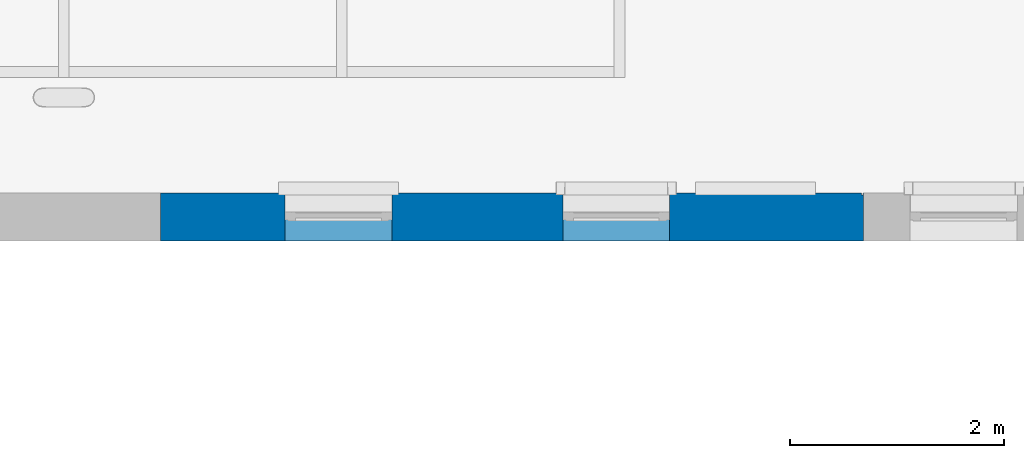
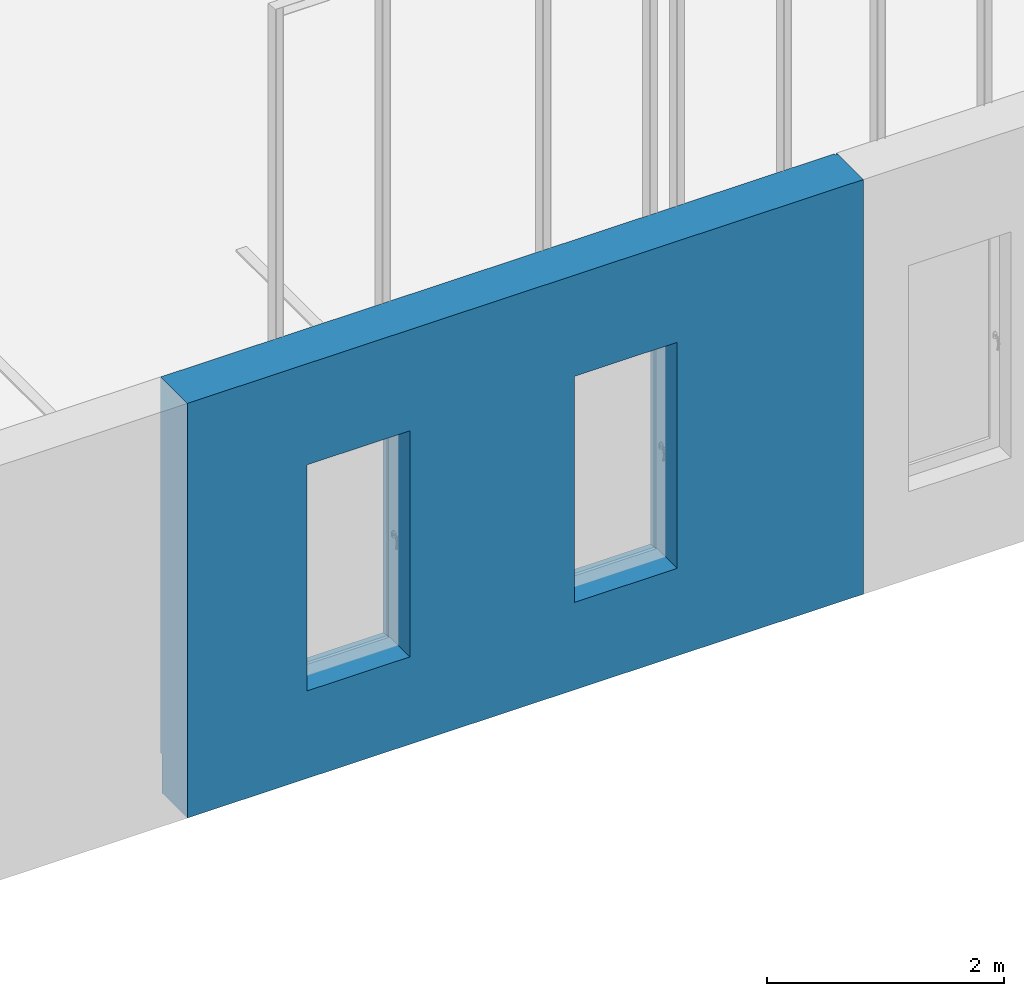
# One storey, part 30 of 77: 1 wall, 5 openings.
"""IFC2X3 building model written with IfcOpenShell, lengths in millimetres."""

import ifcopenshell
import ifcopenshell.guid

model = None  # the IFC model being written
_history = None  # IfcOwnerHistory: only IFC2X3 demands one
_inside = {}  # id of a spatial element -> (the spatial element, [elements in it])
_under = {}  # id of a project, library or spatial element -> (it, [spatial elements below it])
_declared = {}  # id of a project -> (the project, [libraries it declares])
_typed = {}  # id of a type object -> (the type object, [elements of that type])
_made_of = {}  # id of a material, layer set ... -> (it, [elements and type objects made of it])


def new_model(schema):
    """Start an empty IFC model of exactly this schema.

    Asked for "IFC4X3", IfcOpenShell would pick the latest addendum, in which some entities
    have other attributes; the version numbers below select the first issue.
    IFC2X3 requires an IfcOwnerHistory on every rooted entity: one is made here for all.
    """
    global model, _history
    if schema == "IFC4X3":
        model = ifcopenshell.file(schema_version=(4, 3, 0, 0))
    else:
        model = ifcopenshell.file(schema=schema)
    _inside.clear()
    _under.clear()
    _declared.clear()
    _typed.clear()
    _made_of.clear()
    _history = None
    if model.schema == "IFC2X3":
        org = make("IfcOrganization", Name="unknown")
        user = make(
            "IfcPersonAndOrganization",
            ThePerson=make("IfcPerson", FamilyName="unknown"),
            TheOrganization=org,
        )
        app = make(
            "IfcApplication",
            ApplicationDeveloper=org,
            Version="unknown",
            ApplicationFullName="unknown",
            ApplicationIdentifier="unknown",
        )
        _history = make(
            "IfcOwnerHistory",
            OwningUser=user,
            OwningApplication=app,
            ChangeAction="ADDED",
            CreationDate=0,
        )
    return model


def make(cls, **values):
    """One entity of the class cls with the attributes given. An attribute that is None is left unset."""
    return model.create_entity(
        cls, **{name: value for name, value in values.items() if value is not None}
    )


def entity(cls, *values):
    """Any entity or typed value of the class cls, its attributes in the order of the schema. None: left unset."""
    e = model.create_entity(cls)
    for i, value in enumerate(values):
        if value is not None:
            e[i] = value
    return e


def rooted(cls, **values):
    """An entity with a GlobalId (a new one), such as an element, a storey or a relation."""
    return make(cls, GlobalId=ifcopenshell.guid.new(), OwnerHistory=_history, **values)


def si_unit(unit_type, name, prefix=None):
    """IfcSIUnit, for example si_unit("LENGTHUNIT", "METRE", prefix="MILLI")."""
    return make("IfcSIUnit", UnitType=unit_type, Prefix=prefix, Name=name)


def converted_unit(unit_type, name, factor, base, dimensions=None, offset=None):
    """IfcConversionBasedUnit, such as the inch: factor (a typed value) times the base unit."""
    return make(
        "IfcConversionBasedUnit"
        if offset is None
        else "IfcConversionBasedUnitWithOffset",
        ConversionOffset=offset,
        Dimensions=None
        if dimensions is None
        else entity("IfcDimensionalExponents", *dimensions),
        UnitType=unit_type,
        Name=name,
        ConversionFactor=make(
            "IfcMeasureWithUnit", ValueComponent=factor, UnitComponent=base
        ),
    )


def derived_unit(unit_type, elements):
    """IfcDerivedUnit: a product of units, each with its exponent."""
    return make(
        "IfcDerivedUnit",
        Elements=[
            make("IfcDerivedUnitElement", Unit=unit, Exponent=power)
            for unit, power in elements
        ],
        UnitType=unit_type,
    )


def assignment(units):
    """IfcUnitAssignment: the units of a project."""
    return None if units is None else make("IfcUnitAssignment", Units=units)


def point(xyz):
    """IfcCartesianPoint."""
    return None if xyz is None else make("IfcCartesianPoint", Coordinates=xyz)


def direction(xyz):
    """IfcDirection."""
    return None if xyz is None else make("IfcDirection", DirectionRatios=xyz)


def frame(location, z_axis=None, x_axis=None):
    """IfcAxis2Placement3D, a coordinate frame: its origin and axes. An axis left out is left unset."""
    return make(
        "IfcAxis2Placement3D",
        Location=point(location),
        Axis=direction(z_axis),
        RefDirection=direction(x_axis),
    )


def frame_2d(location, x_axis=None):
    """IfcAxis2Placement2D, a coordinate frame in the plane: its origin and x axis."""
    return make(
        "IfcAxis2Placement2D", Location=point(location), RefDirection=direction(x_axis)
    )


def origin():
    """The frame at (0, 0, 0) with its axes left unset."""
    return frame((0.0, 0.0, 0.0))


def origin_2d_with_axis():
    """The frame at (0, 0) in the plane with the x axis (1, 0) written out."""
    return frame_2d((0.0, 0.0), x_axis=(1.0, 0.0))


def place(relative_to, where):
    """IfcLocalPlacement: puts the frame where relative to a parent placement (None: the world)."""
    return make(
        "IfcLocalPlacement", PlacementRelTo=relative_to, RelativePlacement=where
    )


def context(
    kind, dimensions, precision=None, world=None, true_north=None, identifier=None
):
    """IfcGeometricRepresentationContext, for example the 3D "Model" context."""
    return make(
        "IfcGeometricRepresentationContext",
        ContextIdentifier=identifier,
        ContextType=kind,
        CoordinateSpaceDimension=dimensions,
        Precision=precision,
        WorldCoordinateSystem=world,
        TrueNorth=true_north,
    )


def subcontext(parent, identifier, kind, view, scale=None):
    """IfcGeometricRepresentationSubContext, for example "Body" below "Model"."""
    return make(
        "IfcGeometricRepresentationSubContext",
        ContextIdentifier=identifier,
        ContextType=kind,
        ParentContext=parent,
        TargetScale=scale,
        TargetView=view,
    )


def project(units=None, contexts=None):
    """IfcProject with its units and contexts."""
    return rooted(
        "IfcProject",
        Name="project",
        RepresentationContexts=contexts,
        UnitsInContext=assignment(units),
    )


def spatial(cls, under=None, at=None, **own):
    """A site, building, storey or space (cls), placed at a placement, below another one or the project."""
    s = rooted(cls, ObjectPlacement=at, **own)
    if under is not None:
        _under.setdefault(under.id(), (under, []))[1].append(s)
    return s


def profile(cls, at=None, kind="AREA", **sizes):
    """A parametric profile (cls). Its sizes go by their IFC names, for example OverallWidth=200.0."""
    return make(cls, ProfileType=kind, Position=at, **sizes)


def rectangle(**sizes):
    """IfcRectangleProfileDef."""
    return profile("IfcRectangleProfileDef", **sizes)


def extrude(swept, where, along, depth):
    """IfcExtrudedAreaSolid: the profile swept, set in the frame where, extruded along a direction by depth."""
    return make(
        "IfcExtrudedAreaSolid",
        SweptArea=swept,
        Position=where,
        ExtrudedDirection=direction(along),
        Depth=depth,
    )


def faces_of(points, faces, orient=None, outer=None):
    """IfcFace entities. A face is a list of loops; a loop is a list of indices into points, from 0.

    orient and outer hold one flag for each loop. By default every Orientation is true, the
    first loop of a face is its IfcFaceOuterBound and the others are IfcFaceBound.
    """
    made = []
    for i, loops in enumerate(faces):
        bounds = []
        for j, loop in enumerate(loops):
            is_outer = j == 0 if outer is None else outer[i][j]
            bounds.append(
                make(
                    "IfcFaceOuterBound" if is_outer else "IfcFaceBound",
                    Bound=make("IfcPolyLoop", Polygon=[points[k] for k in loop]),
                    Orientation=True if orient is None else orient[i][j],
                )
            )
        made.append(make("IfcFace", Bounds=bounds))
    return made


def faceted_brep(points, faces, orient=None, outer=None, voids=None):
    """IfcFacetedBrep: a solid bounded by flat faces; with voids (closed shells), ...WithVoids."""
    shared = [point(p) for p in points]
    hull = make("IfcClosedShell", CfsFaces=faces_of(shared, faces, orient, outer))
    if voids is None:
        return make("IfcFacetedBrep", Outer=hull)
    return make(
        "IfcFacetedBrepWithVoids",
        Outer=hull,
        Voids=[
            make(cls, CfsFaces=faces_of(shared, fs, o, b)) for cls, fs, o, b in voids
        ],
    )


def shape(context_of_items, identifier, shape_type, items):
    """IfcShapeRepresentation: the items that make up one representation, for example the "Body"."""
    return make(
        "IfcShapeRepresentation",
        ContextOfItems=context_of_items,
        RepresentationIdentifier=identifier,
        RepresentationType=shape_type,
        Items=items,
    )


def material(Name=None, Category=None):
    """IfcMaterial."""
    return make("IfcMaterial", Name=Name, Category=Category)


def layer(
    of_material, thickness, ventilated=None, Name=None, Category=None, Priority=None
):
    """IfcMaterialLayer: one layer of a wall or slab, of a material (None: an air gap)."""
    return make(
        "IfcMaterialLayer",
        Material=of_material,
        LayerThickness=thickness,
        IsVentilated=ventilated,
        Name=Name,
        Category=Category,
        Priority=Priority,
    )


def layer_set(layers, Name=None):
    """IfcMaterialLayerSet."""
    return make("IfcMaterialLayerSet", MaterialLayers=layers, LayerSetName=Name)


def layer_usage(for_layer_set, set_direction, sense, offset, extent=None):
    """IfcMaterialLayerSetUsage: how a layer set lies in its element."""
    return make(
        "IfcMaterialLayerSetUsage",
        ForLayerSet=for_layer_set,
        LayerSetDirection=set_direction,
        DirectionSense=sense,
        OffsetFromReferenceLine=offset,
        ReferenceExtent=extent,
    )


def made_of(thing, what):
    """Note that an element or type object is made of a material, layer set ...; save() writes the relation."""
    if what is not None:
        _made_of.setdefault(what.id(), (what, []))[1].append(thing)
    return thing


def type_object(cls, material=None, **own):
    """A type object (cls), such as IfcWallType, which elements share."""
    return made_of(rooted(cls, **own), material)


def element(
    cls,
    number,
    at=None,
    inside=None,
    cuts=None,
    type_object=None,
    material=None,
    context=None,
    identifier="Body",
    shape_type=None,
    held_by="IfcProductDefinitionShape",
    body=None,
    shapes=None,
    **own,
):
    """One element of the class cls, such as IfcWall. Its Tag is "e" and its number.

    at: its placement. inside: the storey or other place that contains it. cuts: it is an
    opening in that element (IfcRelVoidsElement). A single representation is given by context,
    identifier, shape_type and body (its items); several are given by shapes. held_by: the class
    of the entity that holds the representations. save() writes the other relations.
    """
    e = rooted(cls, Tag="e%d" % number, ObjectPlacement=at, **own)
    if body is not None:
        shapes = [shape(context, identifier, shape_type, body)]
    if shapes is not None:
        e.Representation = make(held_by, Representations=shapes)
    if inside is not None:
        _inside.setdefault(inside.id(), (inside, []))[1].append(e)
    if cuts is not None:
        rooted(
            "IfcRelVoidsElement", RelatingBuildingElement=cuts, RelatedOpeningElement=e
        )
    if type_object is not None:
        _typed.setdefault(type_object.id(), (type_object, []))[1].append(e)
    return made_of(e, material)


def aggregate(whole, parts):
    """IfcRelAggregates: a whole, such as a stair, and the parts it consists of."""
    return rooted("IfcRelAggregates", RelatingObject=whole, RelatedObjects=parts)


def save(model, path):
    """Write the relations noted so far, then the file.

    IfcRelAggregates (storeys below a building ...), IfcRelContainedInSpatialStructure (elements
    in a storey), IfcRelDefinesByType, IfcRelAssociatesMaterial and IfcRelDeclares: one each for
    every whole, place, type object, material and project.
    """
    for whole, parts in _under.values():
        aggregate(whole, parts)
    for where, things in _inside.values():
        rooted(
            "IfcRelContainedInSpatialStructure",
            RelatedElements=things,
            RelatingStructure=where,
        )
    for kind, things in _typed.values():
        rooted("IfcRelDefinesByType", RelatedObjects=things, RelatingType=kind)
    for what, things in _made_of.values():
        rooted("IfcRelAssociatesMaterial", RelatedObjects=things, RelatingMaterial=what)
    for by, libraries in _declared.values():
        rooted("IfcRelDeclares", RelatingContext=by, RelatedDefinitions=libraries)
    model.write(path)


model = new_model("IFC2X3")

# Units and contexts
model_context = context("Model", 3, precision=0.01, world=origin(), true_north=direction((6.12303176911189e-17, 1.0)))
body_context = subcontext(model_context, "Body", "Model", "MODEL_VIEW")
ifc_project = project(units=[si_unit("LENGTHUNIT", "METRE", prefix="MILLI"), si_unit("AREAUNIT", "SQUARE_METRE"), si_unit("VOLUMEUNIT", "CUBIC_METRE"), converted_unit("PLANEANGLEUNIT", "DEGREE", entity("IfcRatioMeasure", 0.0174532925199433), si_unit("PLANEANGLEUNIT", "RADIAN"), dimensions=[0, 0, 0, 0, 0, 0, 0]), si_unit("MASSUNIT", "GRAM", prefix="KILO"), derived_unit("MASSDENSITYUNIT", [(si_unit("MASSUNIT", "GRAM", prefix="KILO"), 1), (si_unit("LENGTHUNIT", "METRE"), -3)]), si_unit("TIMEUNIT", "SECOND"), si_unit("FREQUENCYUNIT", "HERTZ"), si_unit("THERMODYNAMICTEMPERATUREUNIT", "DEGREE_CELSIUS"), derived_unit("THERMALTRANSMITTANCEUNIT", [(si_unit("MASSUNIT", "GRAM", prefix="KILO"), 1), (si_unit("THERMODYNAMICTEMPERATUREUNIT", "KELVIN"), -1), (si_unit("TIMEUNIT", "SECOND"), -3)]), derived_unit("VOLUMETRICFLOWRATEUNIT", [(si_unit("LENGTHUNIT", "METRE"), 3), (si_unit("TIMEUNIT", "SECOND"), -1)]), si_unit("ELECTRICCURRENTUNIT", "AMPERE"), si_unit("ELECTRICVOLTAGEUNIT", "VOLT"), si_unit("POWERUNIT", "WATT"), si_unit("FORCEUNIT", "NEWTON", prefix="KILO"), si_unit("ILLUMINANCEUNIT", "LUX"), si_unit("LUMINOUSFLUXUNIT", "LUMEN"), si_unit("LUMINOUSINTENSITYUNIT", "CANDELA"), derived_unit("USERDEFINED", [(si_unit("MASSUNIT", "GRAM", prefix="KILO"), -1), (si_unit("LENGTHUNIT", "METRE"), -2), (si_unit("TIMEUNIT", "SECOND"), 3), (si_unit("LUMINOUSFLUXUNIT", "LUMEN"), 1)]), derived_unit("LINEARVELOCITYUNIT", [(si_unit("LENGTHUNIT", "METRE"), 1), (si_unit("TIMEUNIT", "SECOND"), -1)]), si_unit("PRESSUREUNIT", "PASCAL"), derived_unit("USERDEFINED", [(si_unit("LENGTHUNIT", "METRE"), -2), (si_unit("MASSUNIT", "GRAM", prefix="KILO"), 1), (si_unit("TIMEUNIT", "SECOND"), -2)])], contexts=[model_context])

# Site, building, storey
site_placement = place(None, origin())
site = spatial("IfcSite", under=ifc_project, at=site_placement, Name="Default", CompositionType="ELEMENT")
building_placement = place(site_placement, origin())
building = spatial("IfcBuilding", under=site, at=building_placement, CompositionType="ELEMENT")
storey_placement = place(building_placement, origin())
storey = spatial("IfcBuildingStorey", under=building, at=storey_placement, Name="1. KORRUS", CompositionType="ELEMENT", Elevation=0.0)

# Wall, openings
ifc_material_1 = material(Name="RECKLI 1 173 THUR by Polantis 2016-toon2")
ifc_layer_1 = layer(ifc_material_1, 100.0)
ifc_material_2 = material(Name="Soojusisolatsioon EPS")
ifc_layer_2 = layer(ifc_material_2, 200.0)
ifc_material_3 = material(Name="r/b")
ifc_layer_3 = layer(ifc_material_3, 150.0)
ifc_layer_set = layer_set([ifc_layer_1, ifc_layer_2, ifc_layer_3], Name="Basic Wall:VS-1_toon-c")
ifc_layer_usage = layer_usage(ifc_layer_set, "AXIS2", "NEGATIVE", 225.0)
wall_type = type_object("IfcWallType", Name="Basic Wall:VS-1_toon-c", PredefinedType="STANDARD", material=ifc_layer_set)
wall_placement = place(storey_placement, frame((22085.0, 21725.0517807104, -400.0)))
wall = element("IfcWallStandardCase", 1, at=wall_placement, inside=storey, type_object=wall_type, material=ifc_layer_usage, Name="Basic Wall:VS-1_toon-c", ObjectType="Basic Wall:VS-1_toon-c", context=body_context, shape_type="SweptSolid", body=[
    extrude(rectangle(XDim=6578.21614873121, YDim=450.000000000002, at=frame_2d((3289.1080743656, -2.55795384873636e-13), x_axis=(-1.0, 0.0))), origin(), (0.0, 0.0, 1.0), 4265.0),
])
opening_1_placement = place(wall_placement, origin())
element("IfcOpeningElement", 2, at=opening_1_placement, cuts=wall, Name="Basic Wall:VS-1_toon-c", ObjectType="Opening", context=body_context, shape_type="Brep", body=[
    faceted_brep([(-22515.0, 6304.94821928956, 400.0), (-22515.0, 6304.94821928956, 0.0), (-22535.0, 6324.94821928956, 0.0), (-22535.0, 6324.94821928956, 400.0), (-22515.0, 1564.94821928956, 400.0), (-22535.0, 1564.94821928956, 400.0), (-22535.0, 1564.94821928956, 0.0), (-22515.0, 1564.94821928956, 0.0)], [[[0, 1, 2, 3]], [[4, 5, 6, 7]], [[1, 0, 4, 7]], [[2, 1, 7, 6]], [[3, 2, 6, 5]], [[0, 3, 5, 4]]]),
    faceted_brep([(-22515.0, 6304.94821928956, 400.0), (-22535.0, 6324.94821928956, 400.0), (-22535.0, 6324.94821928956, 0.0), (-22515.0, 6304.94821928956, 0.0), (-18175.0, 6304.94821928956, 400.0), (-18175.0, 6304.94821928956, 0.0), (-18175.0, 6324.94821928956, 0.0), (-18175.0, 6324.94821928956, 400.0)], [[[0, 1, 2, 3]], [[4, 5, 6, 7]], [[1, 0, 4, 7]], [[2, 1, 7, 6]], [[3, 2, 6, 5]], [[0, 3, 5, 4]]]),
    faceted_brep([(-12455.0, 6304.94821928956, 400.0), (-12435.0, 6324.94821928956, 400.0), (-12435.0, 6324.94821928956, 0.0), (-12455.0, 6304.94821928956, 0.0), (-12455.0, 205.0, 400.0), (-12455.0, 205.0, 0.0), (-12435.0, 225.0, 0.0), (-12435.0, 225.0, 400.0)], [[[0, 1, 2, 3]], [[4, 5, 6, 7]], [[1, 0, 4, 7]], [[2, 1, 7, 6]], [[3, 2, 6, 5]], [[0, 3, 5, 4]]]),
    faceted_brep([(-7735.0, 205.0, 400.0), (-7735.0, 225.0, 400.0), (-7735.0, 225.0, 0.0), (-7735.0, 205.0, 0.0), (-7205.0, 205.0, 400.0), (-7205.0, 205.0, 0.0), (-7205.0, 225.0, 0.0), (-7205.0, 225.0, 400.0)], [[[0, 1, 2, 3]], [[4, 5, 6, 7]], [[1, 0, 4, 7]], [[2, 1, 7, 6]], [[3, 2, 6, 5]], [[0, 3, 5, 4]]]),
    faceted_brep([(17845.0, 205.0, 400.0), (17865.0, 225.0, 400.0), (17865.0, 225.0, 0.0), (17845.0, 205.0, 0.0), (17845.0, -5935.05178071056, 400.0), (17845.0, -5935.05178071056, 0.0), (17865.0, -5935.05178071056, 0.0), (17865.0, -5935.05178071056, 400.0)], [[[0, 1, 2, 3]], [[4, 5, 6, 7]], [[1, 0, 4, 7]], [[2, 1, 7, 6]], [[3, 2, 6, 5]], [[0, 3, 5, 4]]]),
    faceted_brep([(17845.0, -22155.0517807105, 400.0), (17865.0, -22175.0517807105, 400.0), (17865.0, -22175.0517807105, 0.0), (17845.0, -22155.0517807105, 0.0), (12715.0, -22155.0517807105, 400.0), (12715.0, -22155.0517807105, 0.0), (12715.0, -22175.0517807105, 0.0), (12715.0, -22175.0517807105, 400.0)], [[[0, 1, 2, 3]], [[4, 5, 6, 7]], [[1, 0, 4, 7]], [[2, 1, 7, 6]], [[3, 2, 6, 5]], [[0, 3, 5, 4]]]),
    faceted_brep([(-10685.0, -22155.0517807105, 400.0), (-10685.0, -22175.0517807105, 400.0), (-10685.0, -22175.0517807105, 0.0), (-10685.0, -22155.0517807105, 0.0), (-14470.0, -22155.0517807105, 400.0), (-14470.0, -22155.0517807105, 0.0), (-14470.0, -22175.0517807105, 0.0), (-14470.0, -22175.0517807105, 400.0)], [[[0, 1, 2, 3]], [[4, 5, 6, 7]], [[1, 0, 4, 7]], [[2, 1, 7, 6]], [[3, 2, 6, 5]], [[0, 3, 5, 4]]]),
    faceted_brep([(17845.0, -8965.05178071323, 400.0), (17865.0, -8965.05178071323, 400.0), (17865.0, -8965.05178071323, 0.0), (17845.0, -8965.05178071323, 0.0), (17845.0, -13081.7217807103, 400.0), (17845.0, -13081.7217807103, 0.0), (17865.0, -13081.7217807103, 0.0), (17865.0, -13081.7217807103, 400.0)], [[[0, 1, 2, 3]], [[4, 5, 6, 7]], [[1, 0, 4, 7]], [[2, 1, 7, 6]], [[3, 2, 6, 5]], [[0, 3, 5, 4]]]),
    faceted_brep([(9115.0, -22155.0517807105, 400.0), (9115.0, -22175.0517807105, 400.0), (9115.0, -22175.0517807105, 0.0), (9115.0, -22155.0517807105, 0.0), (6715.0, -22155.0517807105, 400.0), (6715.0, -22155.0517807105, 0.0), (6715.0, -22175.0517807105, 0.0), (6715.0, -22175.0517807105, 400.0)], [[[0, 1, 2, 3]], [[4, 5, 6, 7]], [[1, 0, 4, 7]], [[2, 1, 7, 6]], [[3, 2, 6, 5]], [[0, 3, 5, 4]]]),
    faceted_brep([(-18294.969176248, -22155.0517807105, 400.0), (-18294.969176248, -22175.0517807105, 400.0), (-18294.969176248, -22175.0517807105, 0.0), (-18294.969176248, -22155.0517807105, 0.0), (-20779.969176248, -22155.0517807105, 400.0), (-20779.969176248, -22155.0517807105, 0.0), (-20779.969176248, -22175.0517807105, 0.0), (-20779.969176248, -22175.0517807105, 400.0)], [[[0, 1, 2, 3]], [[4, 5, 6, 7]], [[1, 0, 4, 7]], [[2, 1, 7, 6]], [[3, 2, 6, 5]], [[0, 3, 5, 4]]]),
    faceted_brep([(-6085.0, -22155.0517807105, 400.0), (-6085.0, -22175.0517807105, 400.0), (-6085.0, -22175.0517807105, 0.0), (-6085.0, -22155.0517807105, 0.0), (-7085.0, -22155.0517807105, 400.0), (-7085.0, -22155.0517807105, 0.0), (-7085.0, -22175.0517807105, 0.0), (-7085.0, -22175.0517807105, 400.0)], [[[0, 1, 2, 3]], [[4, 5, 6, 7]], [[1, 0, 4, 7]], [[2, 1, 7, 6]], [[3, 2, 6, 5]], [[0, 3, 5, 4]]]),
    faceted_brep([(-1484.96833701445, -22155.0517807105, 400.0), (-1484.96833701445, -22175.0517807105, 400.0), (-1484.96833701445, -22175.0517807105, 0.0), (-1484.96833701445, -22155.0517807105, 0.0), (-2485.0, -22155.0517807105, 400.0), (-2485.0, -22155.0517807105, 0.0), (-2485.0, -22175.0517807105, 0.0), (-2485.0, -22175.0517807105, 400.0)], [[[0, 1, 2, 3]], [[4, 5, 6, 7]], [[1, 0, 4, 7]], [[2, 1, 7, 6]], [[3, 2, 6, 5]], [[0, 3, 5, 4]]]),
    faceted_brep([(3115.03166298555, -22155.0517807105, 400.0), (3115.03166298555, -22175.0517807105, 400.0), (3115.03166298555, -22175.0517807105, 0.0), (3115.03166298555, -22155.0517807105, 0.0), (2115.0, -22155.0517807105, 400.0), (2115.0, -22155.0517807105, 0.0), (2115.0, -22175.0517807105, 0.0), (2115.0, -22175.0517807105, 400.0)], [[[0, 1, 2, 3]], [[4, 5, 6, 7]], [[1, 0, 4, 7]], [[2, 1, 7, 6]], [[3, 2, 6, 5]], [[0, 3, 5, 4]]]),
    faceted_brep([(17845.0, -17310.0517807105, 400.0), (17865.0, -17310.0517807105, 400.0), (17865.0, -17310.0517807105, 0.0), (17845.0, -17310.0517807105, 0.0), (17845.0, -22155.0517807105, 400.0), (17845.0, -22155.0517807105, 0.0), (17865.0, -22175.0517807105, 0.0), (17865.0, -22175.0517807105, 400.0)], [[[0, 1, 2, 3]], [[4, 5, 6, 7]], [[1, 0, 4, 7]], [[2, 1, 7, 6]], [[3, 2, 6, 5]], [[0, 3, 5, 4]]]),
    faceted_brep([(17845.0, -13081.7217807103, 400.0), (17865.0, -13081.7217807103, 400.0), (17865.0, -13081.7217807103, 0.0), (17845.0, -13081.7217807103, 0.0), (17845.0, -17310.0517807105, 400.0), (17845.0, -17310.0517807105, 0.0), (17865.0, -17310.0517807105, 0.0), (17865.0, -17310.0517807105, 400.0)], [[[0, 1, 2, 3]], [[4, 5, 6, 7]], [[1, 0, 4, 7]], [[2, 1, 7, 6]], [[3, 2, 6, 5]], [[0, 3, 5, 4]]]),
    faceted_brep([(17845.0, -5935.05178071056, 400.0), (17865.0, -5935.05178071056, 400.0), (17865.0, -5935.05178071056, 0.0), (17845.0, -5935.05178071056, 0.0), (17845.0, -8965.05178071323, 400.0), (17845.0, -8965.05178071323, 0.0), (17865.0, -8965.05178071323, 0.0), (17865.0, -8965.05178071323, 400.0)], [[[0, 1, 2, 3]], [[4, 5, 6, 7]], [[1, 0, 4, 7]], [[2, 1, 7, 6]], [[3, 2, 6, 5]], [[0, 3, 5, 4]]]),
    faceted_brep([(11885.1035702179, 205.0, 400.0), (11885.1035702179, 225.0, 400.0), (11885.1035702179, 225.0, 0.0), (11885.1035702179, 205.0, 0.0), (17845.0, 205.0, 400.0), (17845.0, 205.0, 0.0), (17865.0, 225.0, 0.0), (17865.0, 225.0, 400.0)], [[[0, 1, 2, 3]], [[4, 5, 6, 7]], [[1, 0, 4, 7]], [[2, 1, 7, 6]], [[3, 2, 6, 5]], [[0, 3, 5, 4]]]),
    faceted_brep([(6578.2161487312, 205.0, 400.0), (6578.2161487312, 225.0, 400.0), (6578.2161487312, 225.0, 0.0), (6578.2161487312, 205.0, 0.0), (11885.1035702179, 205.0, 400.0), (11885.1035702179, 205.0, 0.0), (11885.1035702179, 225.0, 0.0), (11885.1035702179, 225.0, 400.0)], [[[0, 1, 2, 3]], [[4, 5, 6, 7]], [[1, 0, 4, 7]], [[2, 1, 7, 6]], [[3, 2, 6, 5]], [[0, 3, 5, 4]]]),
    faceted_brep([(-14470.0, -22155.0517807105, 400.0), (-14470.0, -22175.0517807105, 400.0), (-14470.0, -22175.0517807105, 0.0), (-14470.0, -22155.0517807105, 0.0), (-18294.969176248, -22155.0517807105, 400.0), (-18294.969176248, -22155.0517807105, 0.0), (-18294.969176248, -22175.0517807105, 0.0), (-18294.969176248, -22175.0517807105, 400.0)], [[[0, 1, 2, 3]], [[4, 5, 6, 7]], [[1, 0, 4, 7]], [[2, 1, 7, 6]], [[3, 2, 6, 5]], [[0, 3, 5, 4]]]),
    faceted_brep([(0.0, 205.0, 400.0), (0.0, 225.0, 400.0), (0.0, 225.0, 0.0), (0.0, 205.0, 0.0), (6578.2161487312, 205.0, 400.0), (6578.2161487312, 205.0, 0.0), (6578.2161487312, 225.0, 0.0), (6578.2161487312, 225.0, 400.0)], [[[0, 1, 2, 3]], [[4, 5, 6, 7]], [[1, 0, 4, 7]], [[2, 1, 7, 6]], [[3, 2, 6, 5]], [[0, 3, 5, 4]]]),
    faceted_brep([(-3831.64710898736, 205.0, 400.0), (-3831.64710898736, 225.0, 400.0), (-3831.64710898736, 225.0, 0.0), (-3831.64710898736, 205.0, 0.0), (0.0, 205.0, 400.0), (0.0, 205.0, 0.0), (0.0, 225.0, 0.0), (0.0, 225.0, 400.0)], [[[0, 1, 2, 3]], [[4, 5, 6, 7]], [[1, 0, 4, 7]], [[2, 1, 7, 6]], [[3, 2, 6, 5]], [[0, 3, 5, 4]]]),
    faceted_brep([(-7205.0, 205.0, 400.0), (-7205.0, 225.0, 400.0), (-7205.0, 225.0, 0.0), (-7205.0, 205.0, 0.0), (-3831.64710898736, 205.0, 400.0), (-3831.64710898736, 205.0, 0.0), (-3831.64710898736, 225.0, 0.0), (-3831.64710898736, 225.0, 400.0)], [[[0, 1, 2, 3]], [[4, 5, 6, 7]], [[1, 0, 4, 7]], [[2, 1, 7, 6]], [[3, 2, 6, 5]], [[0, 3, 5, 4]]]),
    faceted_brep([(-18175.0, 6304.94821928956, 400.0), (-18175.0, 6324.94821928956, 400.0), (-18175.0, 6324.94821928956, 0.0), (-18175.0, 6304.94821928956, 0.0), (-12455.0, 6304.94821928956, 400.0), (-12455.0, 6304.94821928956, 0.0), (-12435.0, 6324.94821928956, 0.0), (-12435.0, 6324.94821928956, 400.0)], [[[0, 1, 2, 3]], [[4, 5, 6, 7]], [[1, 0, 4, 7]], [[2, 1, 7, 6]], [[3, 2, 6, 5]], [[0, 3, 5, 4]]]),
    faceted_brep([(-22515.0, 1564.94821928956, 400.0), (-22515.0, 1564.94821928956, 0.0), (-22535.0, 1564.94821928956, 0.0), (-22535.0, 1564.94821928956, 400.0), (-22515.0, -3985.05108347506, 400.0), (-22535.0, -3985.05108347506, 400.0), (-22535.0, -3985.05108347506, 0.0), (-22515.0, -3985.05108347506, 0.0)], [[[0, 1, 2, 3]], [[4, 5, 6, 7]], [[1, 0, 4, 7]], [[2, 1, 7, 6]], [[3, 2, 6, 5]], [[0, 3, 5, 4]]]),
    faceted_brep([(-22515.0, -3985.05108347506, 400.0), (-22515.0, -3985.05108347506, 0.0), (-22535.0, -3985.05108347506, 0.0), (-22535.0, -3985.05108347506, 400.0), (-22515.0, -8925.05178071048, 400.0), (-22535.0, -8925.05178071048, 400.0), (-22535.0, -8925.05178071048, 0.0), (-22515.0, -8925.05178071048, 0.0)], [[[0, 1, 2, 3]], [[4, 5, 6, 7]], [[1, 0, 4, 7]], [[2, 1, 7, 6]], [[3, 2, 6, 5]], [[0, 3, 5, 4]]]),
    faceted_brep([(-12455.0, 205.0, 400.0), (-12435.0, 225.0, 400.0), (-12435.0, 225.0, 0.0), (-12455.0, 205.0, 0.0), (-11335.0, 205.0, 400.0), (-11335.0, 205.0, 0.0), (-11335.0, 225.0, 0.0), (-11335.0, 225.0, 400.0)], [[[0, 1, 2, 3]], [[4, 5, 6, 7]], [[1, 0, 4, 7]], [[2, 1, 7, 6]], [[3, 2, 6, 5]], [[0, 3, 5, 4]]]),
])
opening_2_placement = place(wall_placement, origin())
element("IfcOpeningElement", 3, at=opening_2_placement, cuts=wall, Name="Basic Wall:VS-1_toon-c", ObjectType="Recess", context=body_context, shape_type="SweptSolid", body=[
    extrude(rectangle(XDim=4265.0, YDim=16.0000000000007, at=origin_2d_with_axis()), frame((6566.04946999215, 205.0, 2132.5), z_axis=(0.0, 1.0, 0.0), x_axis=(0.0, 0.0, 1.0)), (0.0, 0.0, 1.0), 19.9999999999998),
    extrude(rectangle(XDim=4835.0, YDim=16.0000000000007, at=frame_2d((-4.54747350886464e-13, 0.0), x_axis=(1.0, 0.0))), frame((6566.04946999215, 205.0, 6682.5), z_axis=(0.0, 1.0, 0.0), x_axis=(0.0, 0.0, 1.0)), (0.0, 0.0, 1.0), 19.9999999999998),
])
opening_3_placement = place(wall_placement, frame((-22535.0, -22175.0517807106, 4269.0)))
element("IfcOpeningElement", 4, at=opening_3_placement, cuts=wall, Name="Basic Wall:VS-1_toon-c", ObjectType="Opening", context=body_context, shape_type="Brep", body=[
    faceted_brep([(11850.0, 20.0, 16.0), (11850.0, 0.0, 16.0), (11850.0, 0.0, 0.0), (11850.0, 20.0, 0.0), (4260.0, 20.0, 16.0), (4260.0, 20.0, 0.0), (4260.0, 0.0, 0.0), (4260.0, 0.0, 16.0)], [[[0, 1, 2, 3]], [[4, 5, 6, 7]], [[1, 0, 4, 7]], [[2, 1, 7, 6]], [[3, 2, 6, 5]], [[0, 3, 5, 4]]]),
    faceted_brep([(20.0, 28480.0, 16.0), (20.0, 28480.0, 0.0), (0.0, 28500.0, 0.0), (0.0, 28500.0, 16.0), (20.0, 23740.0, 16.0), (0.0, 23740.0, 16.0), (0.0, 23740.0, 0.0), (20.0, 23740.0, 0.0)], [[[0, 1, 2, 3]], [[4, 5, 6, 7]], [[1, 0, 4, 7]], [[2, 1, 7, 6]], [[3, 2, 6, 5]], [[0, 3, 5, 4]]]),
    faceted_brep([(10080.0, 22380.0517807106, 16.0), (10100.0, 22400.0517807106, 16.0), (10100.0, 22400.0517807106, 0.0), (10080.0, 22380.0517807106, 0.0), (15330.3475962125, 22380.0517807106, 16.0), (15330.3475962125, 22380.0517807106, 0.0), (15330.3475962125, 22400.0517807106, 0.0), (15330.3475962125, 22400.0517807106, 16.0)], [[[0, 1, 2, 3]], [[4, 5, 6, 7]], [[1, 0, 4, 7]], [[2, 1, 7, 6]], [[3, 2, 6, 5]], [[0, 3, 5, 4]]]),
    faceted_brep([(20.0, 28480.0, 16.0), (0.0, 28500.0, 16.0), (0.0, 28500.0, 0.0), (20.0, 28480.0, 0.0), (4360.0, 28480.0, 16.0), (4360.0, 28480.0, 0.0), (4360.0, 28500.0, 0.0), (4360.0, 28500.0, 16.0)], [[[0, 1, 2, 3]], [[4, 5, 6, 7]], [[1, 0, 4, 7]], [[2, 1, 7, 6]], [[3, 2, 6, 5]], [[0, 3, 5, 4]]]),
    faceted_brep([(40380.0, 20.0, 16.0), (40400.0, 0.0, 16.0), (40400.0, 0.0, 0.0), (40380.0, 20.0, 0.0), (35250.0, 20.0, 16.0), (35250.0, 20.0, 0.0), (35250.0, 0.0, 0.0), (35250.0, 0.0, 16.0)], [[[0, 1, 2, 3]], [[4, 5, 6, 7]], [[1, 0, 4, 7]], [[2, 1, 7, 6]], [[3, 2, 6, 5]], [[0, 3, 5, 4]]]),
    faceted_brep([(34420.1035702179, 22380.0517807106, 16.0), (34420.1035702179, 22400.0517807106, 16.0), (34420.1035702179, 22400.0517807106, 0.0), (34420.1035702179, 22380.0517807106, 0.0), (40380.0, 22380.0517807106, 16.0), (40380.0, 22380.0517807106, 0.0), (40400.0, 22400.0517807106, 0.0), (40400.0, 22400.0517807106, 16.0)], [[[0, 1, 2, 3]], [[4, 5, 6, 7]], [[1, 0, 4, 7]], [[2, 1, 7, 6]], [[3, 2, 6, 5]], [[0, 3, 5, 4]]]),
    faceted_brep([(29113.2161487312, 22380.0517807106, 16.0), (29113.2161487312, 22400.0517807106, 16.0), (29113.2161487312, 22400.0517807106, 0.0), (29113.2161487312, 22380.0517807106, 0.0), (34420.1035702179, 22380.0517807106, 16.0), (34420.1035702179, 22380.0517807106, 0.0), (34420.1035702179, 22400.0517807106, 0.0), (34420.1035702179, 22400.0517807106, 16.0)], [[[0, 1, 2, 3]], [[4, 5, 6, 7]], [[1, 0, 4, 7]], [[2, 1, 7, 6]], [[3, 2, 6, 5]], [[0, 3, 5, 4]]]),
    faceted_brep([(10080.0, 28480.0, 16.0), (10100.0, 28500.0, 16.0), (10100.0, 28500.0, 0.0), (10080.0, 28480.0, 0.0), (10080.0, 22380.0517807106, 16.0), (10080.0, 22380.0517807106, 0.0), (10100.0, 22400.0517807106, 0.0), (10100.0, 22400.0517807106, 16.0)], [[[0, 1, 2, 3]], [[4, 5, 6, 7]], [[1, 0, 4, 7]], [[2, 1, 7, 6]], [[3, 2, 6, 5]], [[0, 3, 5, 4]]]),
    faceted_brep([(4260.0, 20.0, 16.0), (4260.0, 0.0, 16.0), (4260.0, 0.0, 0.0), (4260.0, 20.0, 0.0), (0.0, 20.0, 16.0), (0.0, 20.0, 0.0), (0.0, 0.0, 0.0), (0.0, 0.0, 16.0)], [[[0, 1, 2, 3]], [[4, 5, 6, 7]], [[1, 0, 4, 7]], [[2, 1, 7, 6]], [[3, 2, 6, 5]], [[0, 3, 5, 4]]]),
    faceted_brep([(40380.0, 4865.0, 16.0), (40400.0, 4865.0, 16.0), (40400.0, 4865.0, 0.0), (40380.0, 4865.0, 0.0), (40380.0, 20.0, 16.0), (40380.0, 20.0, 0.0), (40400.0, 0.0, 0.0), (40400.0, 0.0, 16.0)], [[[0, 1, 2, 3]], [[4, 5, 6, 7]], [[1, 0, 4, 7]], [[2, 1, 7, 6]], [[3, 2, 6, 5]], [[0, 3, 5, 4]]]),
    faceted_brep([(40380.0, 9093.33000000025, 16.0), (40400.0, 9093.33000000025, 16.0), (40400.0, 9093.33000000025, 0.0), (40380.0, 9093.33000000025, 0.0), (40380.0, 4865.0, 16.0), (40380.0, 4865.0, 0.0), (40400.0, 4865.0, 0.0), (40400.0, 4865.0, 16.0)], [[[0, 1, 2, 3]], [[4, 5, 6, 7]], [[1, 0, 4, 7]], [[2, 1, 7, 6]], [[3, 2, 6, 5]], [[0, 3, 5, 4]]]),
    faceted_brep([(40380.0, 13210.0, 16.0), (40400.0, 13210.0, 16.0), (40400.0, 13210.0, 0.0), (40380.0, 13210.0, 0.0), (40380.0, 9093.33000000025, 16.0), (40380.0, 9093.33000000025, 0.0), (40400.0, 9093.33000000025, 0.0), (40400.0, 9093.33000000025, 16.0)], [[[0, 1, 2, 3]], [[4, 5, 6, 7]], [[1, 0, 4, 7]], [[2, 1, 7, 6]], [[3, 2, 6, 5]], [[0, 3, 5, 4]]]),
    faceted_brep([(40380.0, 16240.0, 16.0), (40400.0, 16240.0, 16.0), (40400.0, 16240.0, 0.0), (40380.0, 16240.0, 0.0), (40380.0, 13210.0, 16.0), (40380.0, 13210.0, 0.0), (40400.0, 13210.0, 0.0), (40400.0, 13210.0, 16.0)], [[[0, 1, 2, 3]], [[4, 5, 6, 7]], [[1, 0, 4, 7]], [[2, 1, 7, 6]], [[3, 2, 6, 5]], [[0, 3, 5, 4]]]),
    faceted_brep([(40380.0, 22380.0517807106, 16.0), (40400.0, 22400.0517807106, 16.0), (40400.0, 22400.0517807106, 0.0), (40380.0, 22380.0517807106, 0.0), (40380.0, 16240.0, 16.0), (40380.0, 16240.0, 0.0), (40400.0, 16240.0, 0.0), (40400.0, 16240.0, 16.0)], [[[0, 1, 2, 3]], [[4, 5, 6, 7]], [[1, 0, 4, 7]], [[2, 1, 7, 6]], [[3, 2, 6, 5]], [[0, 3, 5, 4]]]),
    faceted_brep([(22535.0, 22380.0517807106, 16.0), (22535.0, 22400.0517807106, 16.0), (22535.0, 22400.0517807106, 0.0), (22535.0, 22380.0517807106, 0.0), (29113.2161487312, 22380.0517807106, 16.0), (29113.2161487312, 22380.0517807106, 0.0), (29113.2161487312, 22400.0517807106, 0.0), (29113.2161487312, 22400.0517807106, 16.0)], [[[0, 1, 2, 3]], [[4, 5, 6, 7]], [[1, 0, 4, 7]], [[2, 1, 7, 6]], [[3, 2, 6, 5]], [[0, 3, 5, 4]]]),
    faceted_brep([(18703.3528910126, 22380.0517807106, 16.0), (18703.3528910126, 22400.0517807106, 16.0), (18703.3528910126, 22400.0517807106, 0.0), (18703.3528910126, 22380.0517807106, 0.0), (22535.0, 22380.0517807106, 16.0), (22535.0, 22380.0517807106, 0.0), (22535.0, 22400.0517807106, 0.0), (22535.0, 22400.0517807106, 16.0)], [[[0, 1, 2, 3]], [[4, 5, 6, 7]], [[1, 0, 4, 7]], [[2, 1, 7, 6]], [[3, 2, 6, 5]], [[0, 3, 5, 4]]]),
    faceted_brep([(15330.3475962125, 22380.0517807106, 16.0), (15330.3475962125, 22400.0517807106, 16.0), (15330.3475962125, 22400.0517807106, 0.0), (15330.3475962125, 22380.0517807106, 0.0), (18703.3528910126, 22380.0517807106, 16.0), (18703.3528910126, 22380.0517807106, 0.0), (18703.3528910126, 22400.0517807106, 0.0), (18703.3528910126, 22400.0517807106, 16.0)], [[[0, 1, 2, 3]], [[4, 5, 6, 7]], [[1, 0, 4, 7]], [[2, 1, 7, 6]], [[3, 2, 6, 5]], [[0, 3, 5, 4]]]),
    faceted_brep([(4360.0, 28480.0, 16.0), (4360.0, 28500.0, 16.0), (4360.0, 28500.0, 0.0), (4360.0, 28480.0, 0.0), (10080.0, 28480.0, 16.0), (10080.0, 28480.0, 0.0), (10100.0, 28500.0, 0.0), (10100.0, 28500.0, 16.0)], [[[0, 1, 2, 3]], [[4, 5, 6, 7]], [[1, 0, 4, 7]], [[2, 1, 7, 6]], [[3, 2, 6, 5]], [[0, 3, 5, 4]]]),
    faceted_brep([(20.0, 23740.0, 16.0), (20.0, 23740.0, 0.0), (0.0, 23740.0, 0.0), (0.0, 23740.0, 16.0), (20.0, 16890.0006972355, 16.0), (0.0, 16890.0006972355, 16.0), (0.0, 16890.0006972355, 0.0), (20.0, 16890.0006972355, 0.0)], [[[0, 1, 2, 3]], [[4, 5, 6, 7]], [[1, 0, 4, 7]], [[2, 1, 7, 6]], [[3, 2, 6, 5]], [[0, 3, 5, 4]]]),
    faceted_brep([(20.0, 16890.0006972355, 16.0), (20.0, 16890.0006972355, 0.0), (0.0, 16890.0006972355, 0.0), (0.0, 16890.0006972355, 16.0), (20.0, 13460.0, 16.0), (0.0, 13460.0, 16.0), (0.0, 13460.0, 0.0), (20.0, 13460.0, 0.0)], [[[0, 1, 2, 3]], [[4, 5, 6, 7]], [[1, 0, 4, 7]], [[2, 1, 7, 6]], [[3, 2, 6, 5]], [[0, 3, 5, 4]]]),
])
opening_4_placement = place(wall_placement, frame((1165.0, -225.0, 878.057009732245)))
element("IfcOpeningElement", 5, at=opening_4_placement, cuts=wall, Name="Basic Wall:VS-1_toon-c", ObjectType="Opening", context=body_context, shape_type="Brep", body=[
    faceted_brep([(0.0, 0.0, 2346.94299026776), (0.0, 0.0, 21.9429902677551), (1000.0, 0.0, 21.9429902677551), (1000.0, 0.0, 2346.94299026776), (1000.0, 450.0, 2721.94299026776), (1000.0, 450.0, 0.0), (0.0, 450.0, 0.0), (0.0, 450.0, 2721.94299026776), (0.0, 250.0, 2346.94299026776), (0.0, 250.0, 2721.94299026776), (0.0, 325.555118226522, 21.9429902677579), (1000.0, 325.555118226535, 21.9429902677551), (1000.0, 250.0, 2721.94299026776), (1000.0, 250.0, 2346.94299026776)], [[[0, 1, 2, 3]], [[4, 5, 6, 7]], [[0, 8, 9, 7, 6, 10, 1]], [[1, 10, 11, 2]], [[2, 11, 5, 4, 12, 13, 3]], [[3, 13, 8, 0]], [[9, 8, 13, 12]], [[12, 4, 7, 9]], [[6, 5, 11, 10]]]),
])
opening_5_placement = place(wall_placement, frame((3765.0, -225.0, 878.057009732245)))
element("IfcOpeningElement", 6, at=opening_5_placement, cuts=wall, Name="Basic Wall:VS-1_toon-c", ObjectType="Opening", context=body_context, shape_type="Brep", body=[
    faceted_brep([(0.0, 0.0, 2346.94299026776), (0.0, 0.0, 21.9429902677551), (1000.0, 0.0, 21.9429902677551), (1000.0, 0.0, 2346.94299026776), (1000.0, 450.0, 2721.94299026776), (1000.0, 450.0, 0.0), (0.0, 450.0, 0.0), (0.0, 450.0, 2721.94299026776), (0.0, 250.0, 2346.94299026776), (0.0, 250.0, 2721.94299026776), (0.0, 325.555118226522, 21.9429902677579), (1000.0, 325.555118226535, 21.9429902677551), (1000.0, 250.0, 2721.94299026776), (1000.0, 250.0, 2346.94299026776)], [[[0, 1, 2, 3]], [[4, 5, 6, 7]], [[0, 8, 9, 7, 6, 10, 1]], [[1, 10, 11, 2]], [[2, 11, 5, 4, 12, 13, 3]], [[3, 13, 8, 0]], [[9, 8, 13, 12]], [[12, 4, 7, 9]], [[6, 5, 11, 10]]]),
])

save(model, "model.ifc")
